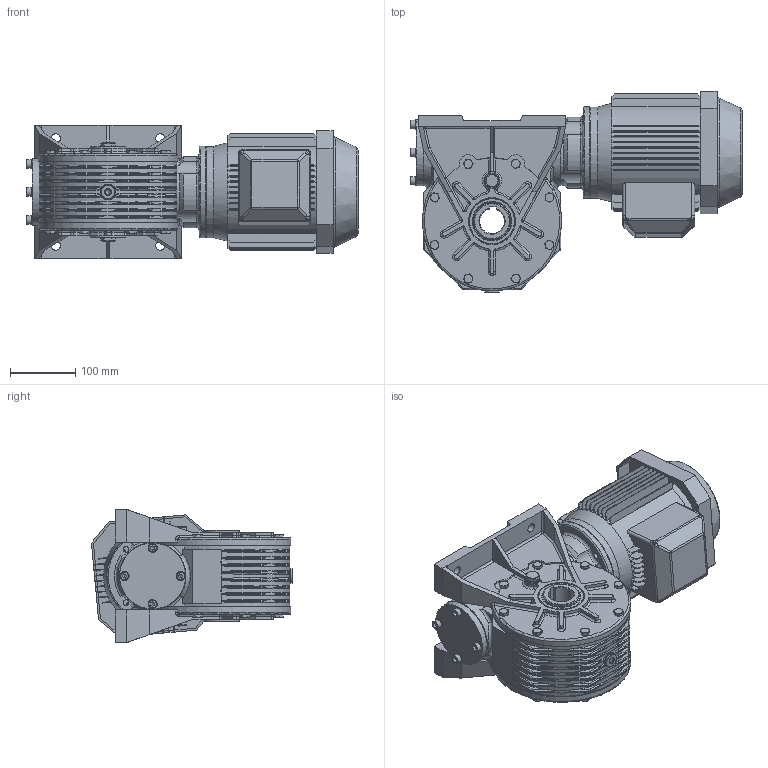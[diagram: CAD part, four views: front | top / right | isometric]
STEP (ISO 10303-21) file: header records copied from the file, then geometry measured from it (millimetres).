
FILE_DESCRIPTION((''),'2;1');
FILE_NAME('Y:\Archivi Inventor\Prog_01\GRAND_50\complessivi\Figurini\MRV50 sito\90s\mrv50_P1_90S_B14.stp','2013-02-08T10:26:43',('tech3'),(''),'Autodesk Inventor 2013','Autodesk Inventor 2013','');
FILE_SCHEMA(('AUTOMOTIVE_DESIGN { 1 0 10303 214 1 1 1 1 }'));
Length unit declared in the file: millimetre
Products named in the file (18): mrv50_90s_90l_b14; mrv50_fig; Figurino_carcassa_MRV50; 0105028; 0105029; figurino_corona_MRV50; figurino_0105010; Guarnizione 3_8 GAS; Tappo 3_8 GAS_esagn_incsst; Tappo3_8 GAS; figurino_0105009; ISO 4017 M8 x 20; 55_70_8; UNI 6592 8.4 x 14; UNI 5931  M 8 x  25; 0105006; DIN EN ISO 4762 M8 x 25; motori B14 90S
Assembly tree (50 placements, depth 3):
  mrv50_90s_90l_b14
    mrv50_fig
      Figurino_carcassa_MRV50
      0105028  x2
      0105029  x2
      figurino_corona_MRV50
      figurino_0105010  x2
      Guarnizione 3_8 GAS  x4
      Tappo 3_8 GAS_esagn_incsst  x2
      Tappo3_8 GAS  x2
      figurino_0105009
      ISO 4017 M8 x 20  x16
      55_70_8  x2
      UNI 6592 8.4 x 14  x4
      UNI 5931  M 8 x  25  x4
    0105006
    DIN EN ISO 4762 M8 x 25  x4
    motori B14 90S
Bounding box: 507.8 x 307.51 x 203.7 mm (x, y, z)
Volume: 10948645.1 mm3; surface area: 1159889.2 mm2
Topology: 61 solids, 63 shells, 2068 faces, 4947 edges, 2952 vertices
Faces by surface type: plane 862, cylinder 616, cone 229, bspline 162, torus 161, sphere 38
Full cylindrical faces by diameter (mm): 2 x2, 6.647 x28, 8 x26, 8.4 x4, 8.5 x48, 9 x4, 11.63 x16, 13 x12, 13.046 x2, 14 x12, 14.95 x4, 16.3 x4, 16.5 x2, 22 x8, 24 x3, 55 x1, 60 x1, 66.4 x2, 69 x2, 70 x6, 72 x4, 73 x2, 75 x1, 95 x1, 99.5 x2, 101 x1, 102 x2, 114.4 x1, 140 x2, 176 x4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
Entity records: 48949 total; most frequent: CARTESIAN_POINT 16882, DIRECTION 6566, ORIENTED_EDGE 6142, EDGE_CURVE 3071, AXIS2_PLACEMENT_3D 2549, VERTEX_POINT 1993, EDGE_LOOP 1736, VECTOR 1468
